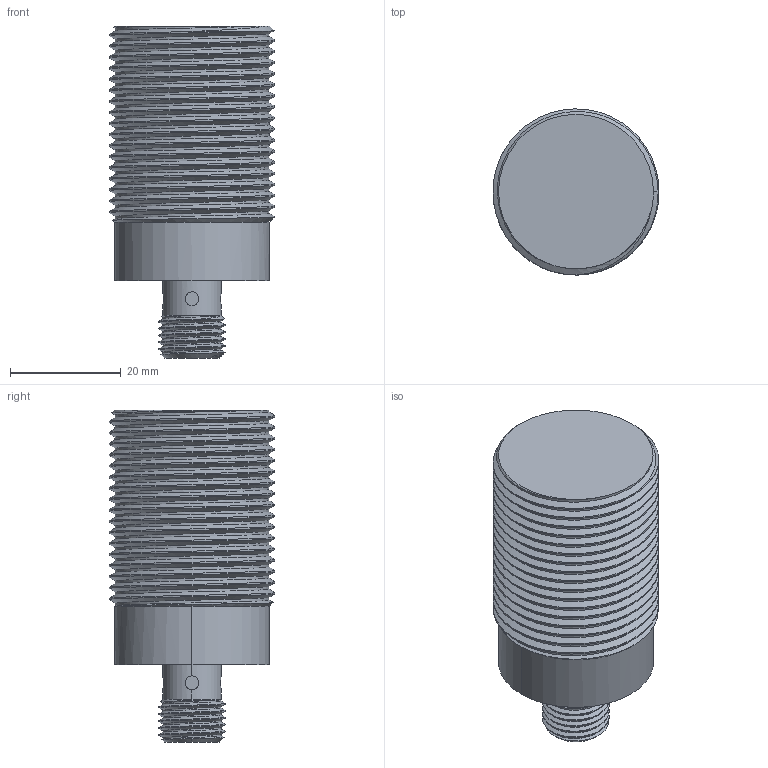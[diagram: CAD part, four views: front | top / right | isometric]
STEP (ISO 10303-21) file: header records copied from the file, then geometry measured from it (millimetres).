
FILE_DESCRIPTION (( 'STEP AP214' ), '1' );
FILE_NAME ('BAT6R11.STEP', '2025-04-28T00:39:44', ( '' ), ( '' ), 'SwSTEP 2.0', 'SolidWorks 2022', '' );
FILE_SCHEMA (( 'AUTOMOTIVE_DESIGN' ));
Length unit declared in the file: millimetre
Products named in the file (1): BAT6R11
Bounding box: 30 x 30 x 60 mm (x, y, z)
Volume: 30841.5 mm3; surface area: 8025.9 mm2
Topology: 1 solids, 1 shells, 85 faces, 230 edges, 150 vertices
Faces by surface type: cylinder 57, cone 12, bspline 9, plane 7
Entity records: 8570 total; most frequent: CARTESIAN_POINT 6784, ORIENTED_EDGE 458, DIRECTION 271, EDGE_CURVE 229, VERTEX_POINT 150, AXIS2_PLACEMENT_3D 102, EDGE_LOOP 87, FACE_OUTER_BOUND 84
